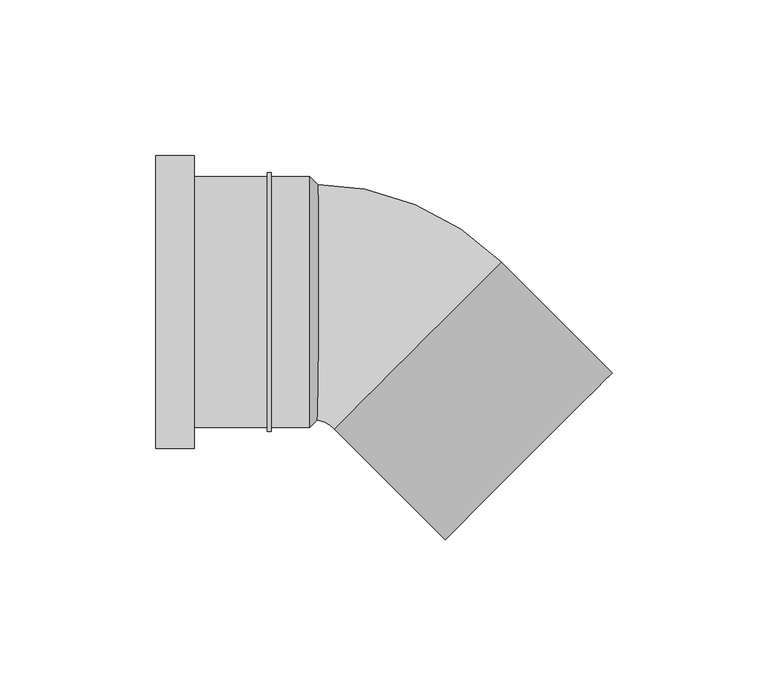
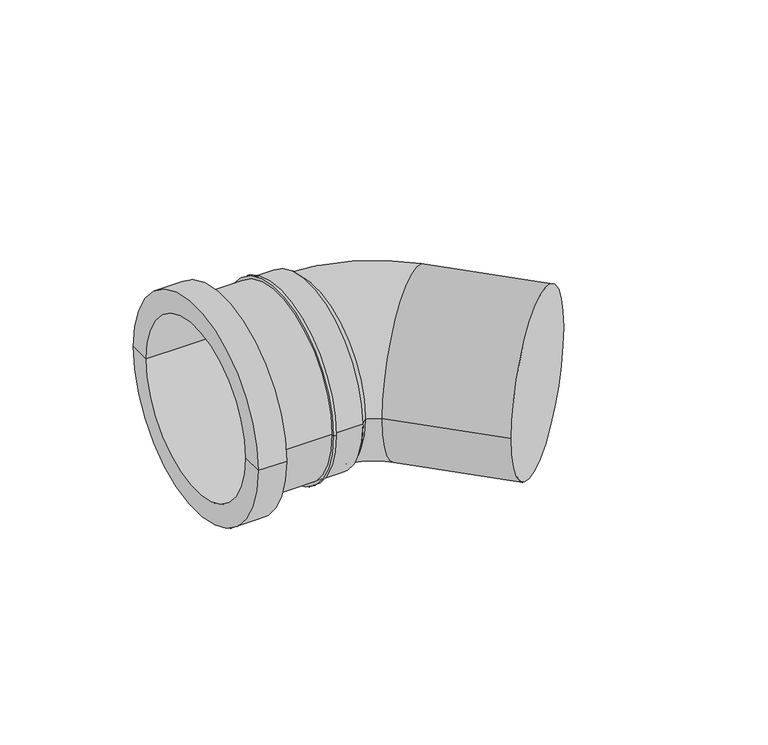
"""IFC4 building model written with IfcOpenShell, lengths in millimetres: pipe fitting geometry, UN_PIF_PP bend S-Sp_SH_PipeLife : Black, var. DN/OD (max. ø125, nested)."""

from ifc_helpers import new_model, si_unit, point, frame, origin, place, context, project, spatial, polyline, circle_curve, ellipse_curve, trimmed, source, transform, mapped, element, save
from ifc_brep_helpers import plane_surface, cylinder_surface, revolved_surface, advanced_brep


def pipe_fitting_ed827aa6(model_context):
    return source(origin(), model_context, "Body", "AdvancedBrep", [
        advanced_brep(
        [(-18.0, -37.5, 0.0), (-20.7, -40.2, 0.0), (-20.7, 40.2, 0.0), (-18.0, 37.5, 0.0), (-70.0, -46.9, 0.0), (-70.0, -37.5, 0.0), (-70.0, 37.5, 0.0), (-70.0, 46.9, 0.0), (-57.675, -46.9, 0.0), (-57.675, 46.9, 0.0), (-57.675, -40.2, 0.0), (-57.675, 40.2, 0.0), (-34.275, -40.2, 0.0), (-34.275, 40.2, 0.0), (-34.275, -41.45, 0.0), (-34.275, 41.45, 0.0), (-33.025, -41.45, 0.0), (-33.025, 41.45, 0.0), (-33.025, -40.2, 0.0), (-33.025, 40.2, 0.0)],
        [
            (0, 1),
            (1, 2, circle_curve(frame((-20.7, 0.0, 0.0), z_axis=(1.0, 0.0, 0.0), x_axis=(0.0, 1.0, 0.0)), 40.2)),
            (2, 3),
            (3, 0, circle_curve(frame((-18.0, 0.0, 0.0), z_axis=(-1.0, 0.0, 0.0), x_axis=(0.0, 1.0, 0.0)), 37.5)),
            (2, 1, circle_curve(frame((-20.7, 0.0, 0.0), z_axis=(1.0, 0.0, 0.0), x_axis=(0.0, 1.0, 0.0)), 40.2)),
            (0, 3, circle_curve(frame((-18.0, 0.0, 0.0), z_axis=(-1.0, 0.0, 0.0), x_axis=(0.0, 1.0, 0.0)), 37.5)),
            (4, 5),
            (5, 6, circle_curve(frame((-70.0, 0.0, 0.0), z_axis=(1.0, 0.0, 0.0), x_axis=(0.0, 1.0, 0.0)), 37.5)),
            (6, 7),
            (7, 4, circle_curve(frame((-70.0, 0.0, 0.0), z_axis=(-1.0, 0.0, 0.0), x_axis=(0.0, 1.0, 0.0)), 46.9)),
            (6, 5, circle_curve(frame((-70.0, 0.0, 0.0), z_axis=(1.0, 0.0, 0.0), x_axis=(0.0, 1.0, 0.0)), 37.5)),
            (4, 7, circle_curve(frame((-70.0, 0.0, 0.0), z_axis=(-1.0, 0.0, 0.0), x_axis=(0.0, 1.0, 0.0)), 46.9)),
            (8, 4),
            (7, 9),
            (9, 8, circle_curve(frame((-57.675, 0.0, 0.0), z_axis=(-1.0, 0.0, 0.0), x_axis=(0.0, 1.0, 0.0)), 46.9)),
            (8, 9, circle_curve(frame((-57.675, 0.0, 0.0), z_axis=(-1.0, 0.0, 0.0), x_axis=(0.0, 1.0, 0.0)), 46.9)),
            (10, 8),
            (9, 11),
            (11, 10, circle_curve(frame((-57.675, 0.0, 0.0), z_axis=(-1.0, 0.0, 0.0), x_axis=(0.0, 1.0, 0.0)), 40.2)),
            (10, 11, circle_curve(frame((-57.675, 0.0, 0.0), z_axis=(-1.0, 0.0, 0.0), x_axis=(0.0, 1.0, 0.0)), 40.2)),
            (12, 10),
            (11, 13),
            (13, 12, circle_curve(frame((-34.275, 0.0, 0.0), z_axis=(-1.0, 0.0, 0.0), x_axis=(0.0, 1.0, 0.0)), 40.2)),
            (12, 13, circle_curve(frame((-34.275, 0.0, 0.0), z_axis=(-1.0, 0.0, 0.0), x_axis=(0.0, 1.0, 0.0)), 40.2)),
            (14, 12),
            (13, 15),
            (15, 14, circle_curve(frame((-34.275, 0.0, 0.0), z_axis=(-1.0, 0.0, 0.0), x_axis=(0.0, 1.0, 0.0)), 41.45)),
            (14, 15, circle_curve(frame((-34.275, 0.0, 0.0), z_axis=(-1.0, 0.0, 0.0), x_axis=(0.0, 1.0, 0.0)), 41.45)),
            (16, 14),
            (15, 17),
            (17, 16, circle_curve(frame((-33.025, 0.0, 0.0), z_axis=(-1.0, 0.0, 0.0), x_axis=(0.0, 1.0, 0.0)), 41.45)),
            (16, 17, circle_curve(frame((-33.025, 0.0, 0.0), z_axis=(-1.0, 0.0, 0.0), x_axis=(0.0, 1.0, 0.0)), 41.45)),
            (18, 16),
            (17, 19),
            (19, 18, circle_curve(frame((-33.025, 0.0, 0.0), z_axis=(-1.0, 0.0, 0.0), x_axis=(0.0, 1.0, 0.0)), 40.2)),
            (18, 19, circle_curve(frame((-33.025, 0.0, 0.0), z_axis=(-1.0, 0.0, 0.0), x_axis=(0.0, 1.0, 0.0)), 40.2)),
            (1, 18),
            (19, 2),
            (5, 0),
            (3, 6),
        ],
        [
            revolved_surface(polyline([(-20.7, 40.2, 0.0), (-18.0, 37.5, 0.0)]), (-70.0, 0.0, 0.0), (1.0, 0.0, 0.0)),
            plane_surface(frame((-70.0, 0.0, 0.0), z_axis=(-1.0, 0.0, 0.0), x_axis=(0.0, 1.0, 0.0))),
            cylinder_surface(frame((-70.0, 0.0, 0.0), z_axis=(1.0, 0.0, 0.0), x_axis=(0.0, 1.0, 0.0)), 46.9),
            plane_surface(frame((-57.675, 0.0, 0.0), z_axis=(1.0, 0.0, 0.0), x_axis=(0.0, 1.0, 0.0))),
            cylinder_surface(frame((-70.0, 0.0, 0.0), z_axis=(1.0, 0.0, 0.0), x_axis=(0.0, 1.0, 0.0)), 40.2),
            plane_surface(frame((-34.275, 0.0, 0.0), z_axis=(-1.0, 0.0, 0.0), x_axis=(0.0, 1.0, 0.0))),
            cylinder_surface(frame((-70.0, 0.0, 0.0), z_axis=(1.0, 0.0, 0.0), x_axis=(0.0, 1.0, 0.0)), 41.45),
            plane_surface(frame((-33.025, 0.0, 0.0), z_axis=(1.0, 0.0, 0.0), x_axis=(0.0, 1.0, 0.0))),
            revolved_surface(polyline([(-18.0, 37.5, 0.0), (-70.0, 37.5, 0.0)]), (-70.0, 0.0, 0.0), (1.0, 0.0, 0.0)),
        ],
        [
            (0, [[1, 2, 3, 4]]),
            (0, [[-3, 5, -1, 6]]),
            (1, [[7, 8, 9, 10]]),
            (1, [[-9, 11, -7, 12]]),
            (2, [[13, -10, 14, 15]]),
            (2, [[-14, -12, -13, 16]]),
            (3, [[17, -15, 18, 19]]),
            (3, [[-18, -16, -17, 20]]),
            (4, [[21, -19, 22, 23]]),
            (4, [[-22, -20, -21, 24]]),
            (5, [[25, -23, 26, 27]]),
            (5, [[-26, -24, -25, 28]]),
            (6, [[29, -27, 30, 31]]),
            (6, [[-30, -28, -29, 32]]),
            (7, [[33, -31, 34, 35]]),
            (7, [[-34, -32, -33, 36]]),
            (4, [[37, -35, 38, -2]]),
            (4, [[-38, -36, -37, -5]]),
            (8, [[39, -4, 40, -8]]),
            (8, [[-40, -6, -39, -11]]),
        ],
    ),
        advanced_brep(
        [(-20.7, 37.8, 0.0), (-20.7, -37.8, 0.0), (-19.7, -37.8, 0.0), (-19.7, 37.8, 0.0), (-12.7986327, -40.6586399, 0.0), (40.6586399, 12.7986327, 0.0), (76.226111, -22.7688384, 0.0), (22.7688384, -76.226111, 0.0)],
        [
            (0, 1, circle_curve(frame((-20.7, 0.0, 0.0), z_axis=(-1.0, 0.0, 0.0), x_axis=(0.0, -1.0, 0.0)), 37.8)),
            (1, 0, circle_curve(frame((-20.7, 0.0, 0.0), z_axis=(-1.0, 0.0, 0.0), x_axis=(0.0, -1.0, 0.0)), 37.8)),
            (1, 2),
            (2, 3, circle_curve(frame((-19.7, 0.0, 0.0), z_axis=(-1.0, 0.0, 0.0), x_axis=(0.0, -1.0, 0.0)), 37.8)),
            (3, 0),
            (3, 2, circle_curve(frame((-19.7, 0.0, 0.0), z_axis=(-1.0, 0.0, 0.0), x_axis=(0.0, -1.0, 0.0)), 37.8)),
            (4, 5, circle_curve(frame((13.9300036, -13.9300036, 0.0), z_axis=(-0.7071067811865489, 0.7071067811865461, 0.0), x_axis=(-0.7071067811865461, -0.7071067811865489, 0.0)), 37.8)),
            (5, 3, circle_curve(frame((-19.7, -47.5600072, 0.0), z_axis=(0.0, 0.0, 1.0), x_axis=(0.0, 1.0, 0.0)), 85.3600072)),
            (2, 4, circle_curve(frame((-19.7, -47.5600072, 0.0), z_axis=(0.0, 0.0, -1.0), x_axis=(0.0, 1.0, 0.0)), 9.7600072)),
            (5, 4, circle_curve(frame((13.9300036, -13.9300036, 0.0), z_axis=(-0.7071067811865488, 0.7071067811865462, 0.0), x_axis=(-0.7071067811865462, -0.7071067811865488, 0.0)), 37.8)),
            (6, 7, circle_curve(frame((49.4974747, -49.4974747, 0.0), z_axis=(0.707106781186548, -0.7071067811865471, 0.0), x_axis=(-0.7071067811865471, -0.707106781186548, 0.0)), 37.8)),
            (7, 6, circle_curve(frame((49.4974747, -49.4974747, 0.0), z_axis=(0.707106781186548, -0.7071067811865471, 0.0), x_axis=(-0.7071067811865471, -0.707106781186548, 0.0)), 37.8)),
            (4, 7),
            (6, 5),
        ],
        [
            plane_surface(frame((-20.7, 0.0, 0.0), z_axis=(-1.0, 0.0, 0.0), x_axis=(0.0, 0.0, 1.0))),
            cylinder_surface(frame((-20.7, 0.0, 0.0), z_axis=(-1.0, 0.0, 0.0), x_axis=(0.0, -1.0, 0.0)), 37.8),
            revolved_surface(trimmed(ellipse_curve(frame((-19.7, 0.0, 0.0), z_axis=(1.0, 0.0, 0.0), x_axis=(0.0, -1.0, 0.0)), 37.8, 37.8), [point((-19.7, 37.8, 0.0))], [point((-19.7, -37.8, 0.0))], True, "CARTESIAN"), (-19.7, -47.5600072, 0.0), (0.0, 0.0, 1.0)),
            revolved_surface(trimmed(ellipse_curve(frame((-19.7, 0.0, 0.0), z_axis=(1.0, 0.0, 0.0), x_axis=(0.0, -1.0, 0.0)), 37.8, 37.8), [point((-19.7, -37.8, 0.0))], [point((-19.7, 37.8, 0.0))], True, "CARTESIAN"), (-19.7, -47.5600072, 0.0), (0.0, 0.0, 1.0)),
            plane_surface(frame((49.4974747, -49.4974747, 0.0), z_axis=(0.707106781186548, -0.7071067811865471, 0.0), x_axis=(0.0, 0.0, 1.0))),
            cylinder_surface(frame((13.9300036, -13.9300036, 0.0), z_axis=(-0.707106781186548, 0.7071067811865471, 0.0), x_axis=(-0.7071067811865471, -0.707106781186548, 0.0)), 37.8),
        ],
        [
            (0, [[1, 2]]),
            (1, [[3, 4, 5, -2]]),
            (1, [[-5, 6, -3, -1]]),
            (2, [[7, 8, -4, 9]]),
            (3, [[10, -9, -6, -8]]),
            (4, [[11, 12]]),
            (5, [[13, -11, 14, -7]]),
            (5, [[-14, -12, -13, -10]]),
        ],
    ),
    ])


if __name__ == "__main__":
    model = new_model("IFC4")
    model_context = context("Model", 3, world=origin())
    ifc_project = project(units=[si_unit("LENGTHUNIT", "METRE", prefix="MILLI")], contexts=[model_context])
    site = spatial("IfcSite", under=ifc_project)
    building = spatial("IfcBuilding", under=site)
    placement = place(None, origin())
    pipe_fitting_shape = pipe_fitting_ed827aa6(model_context)
    element("IfcPipeFitting", 1, ObjectType="UN_PIF_PP bend S-Sp_SH_PipeLife : Black, var. DN/OD (max. ø125, nested)", at=placement, inside=building, context=model_context, shape_type="MappedRepresentation", body=[
        mapped(pipe_fitting_shape, transform((0.0, 0.0, 0.0), x_axis=(1.0, 0.0, 0.0), y_axis=(0.0, 1.0, 0.0), z_axis=(0.0, 0.0, 1.0))),
    ])
    save(model, "model.ifc")
